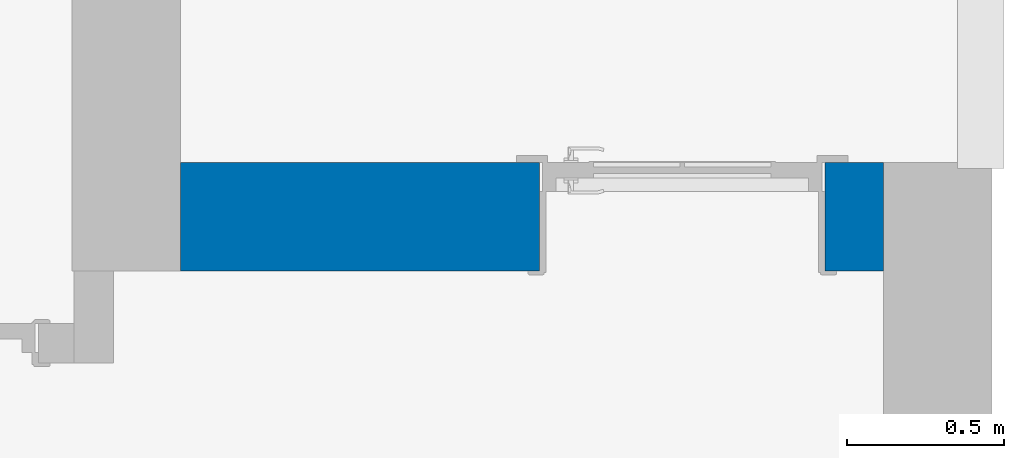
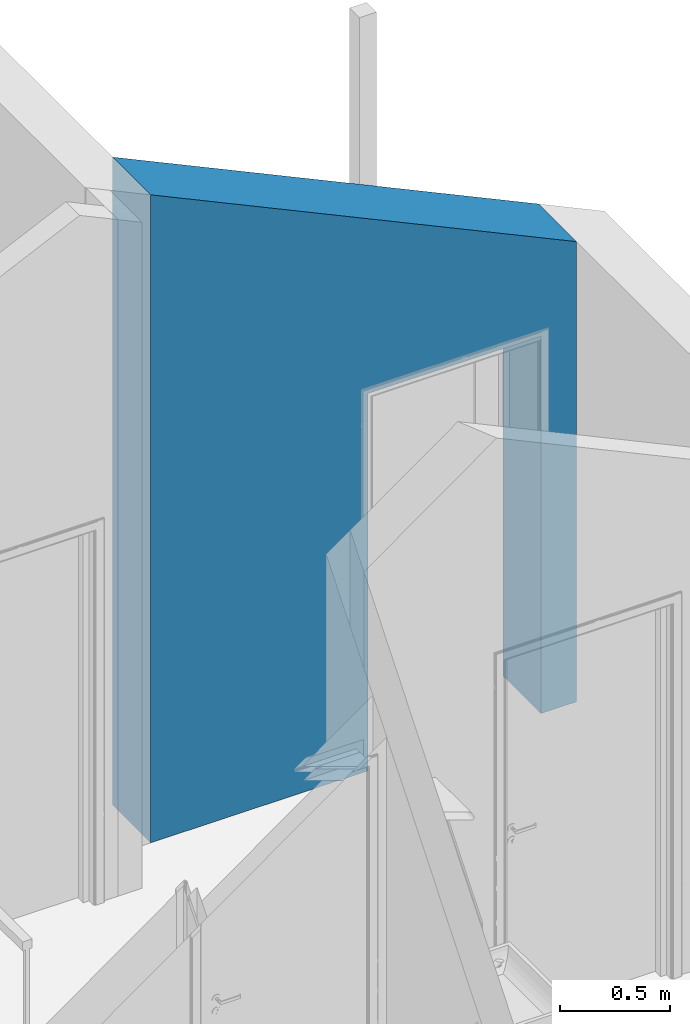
# One storey, part 29 of 44: 1 wall, 1 opening.
"""IFC2X3 building model written with IfcOpenShell, lengths in millimetres."""

from ifc_helpers import new_model, entity, si_unit, converted_unit, direction, frame, frame_2d, origin, place, context, subcontext, project, spatial, polyline, rectangle, extrude, clip, bounded_halfspace, material, layer, layer_set, layer_usage, type_object, element, save


model = new_model("IFC2X3")

# Units and contexts
model_context = context("Model", 3, precision=0.01, world=origin(), true_north=direction((0.0, 1.0)))
body_context = subcontext(model_context, "Body", "Model", "MODEL_VIEW")
ifc_project = project(units=[si_unit("LENGTHUNIT", "METRE", prefix="MILLI"), si_unit("AREAUNIT", "SQUARE_METRE"), si_unit("VOLUMEUNIT", "CUBIC_METRE"), converted_unit("PLANEANGLEUNIT", "DEGREE", entity("IfcPlaneAngleMeasure", 0.017453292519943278), si_unit("PLANEANGLEUNIT", "RADIAN"), dimensions=[0, 0, 0, 0, 0, 0, 0])], contexts=[model_context])

# Site, building, storey
site_placement = place(None, origin())
site = spatial("IfcSite", under=ifc_project, at=site_placement, Name="Default", CompositionType="ELEMENT")
building_placement = place(site_placement, origin())
building = spatial("IfcBuilding", under=site, at=building_placement, CompositionType="ELEMENT")
storey_placement = place(building_placement, frame((0.0, 0.0, 2681.0)))
storey = spatial("IfcBuildingStorey", under=building, at=storey_placement, Name="Et. 2", CompositionType="ELEMENT", Elevation=2681.0)

# Wall, opening
ifc_material_1 = material(Name="Vegg - Stående Kledning_smal - HVIT")
ifc_layer_1 = layer(ifc_material_1, 19.0)
ifc_material_2 = material(Name="Vegg - Utlekting")
ifc_layer_2 = layer(ifc_material_2, 36.0)
ifc_layer_3 = layer(ifc_material_2, 23.0)
ifc_material_3 = material(Name="Vegg - Gips - GU")
ifc_layer_4 = layer(ifc_material_3, 9.0)
ifc_material_4 = material(Name="Vegg - Stender - Isolert")
ifc_layer_5 = layer(ifc_material_4, 198.0)
ifc_material_5 = material(Name="Vegg - Påforing - Isolert")
ifc_layer_6 = layer(ifc_material_5, 48.0)
ifc_material_6 = material(Name="Vegg - Gips - Hvit")
ifc_layer_7 = layer(ifc_material_6, 13.000000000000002)
ifc_layer_set = layer_set([ifc_layer_1, ifc_layer_2, ifc_layer_3, ifc_layer_4, ifc_layer_5, ifc_layer_6, ifc_layer_7], Name="Basic Wall:23-Kv(sm)TIG-19_36_23_9_198_48_13")
ifc_layer_usage = layer_usage(ifc_layer_set, "AXIS2", "NEGATIVE", 173.0)
wall_type = type_object("IfcWallType", Name="Basic Wall:23-Kv(sm)TIG-19_36_23_9_198_48_13", PredefinedType="STANDARD", material=ifc_layer_set)
wall_placement = place(storey_placement, frame((31678.00958675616, 13822.180957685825, 0.0)))
wall = element("IfcWallStandardCase", 1, at=wall_placement, inside=storey, type_object=wall_type, material=ifc_layer_usage, Name="Basic Wall:23-Kv(sm)TIG-19_36_23_9_198_48_13", context=body_context, shape_type="Clipping", body=[
    clip(extrude(rectangle(XDim=2241.000000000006, YDim=345.9999999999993, at=frame_2d((1120.500000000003, -2.2737367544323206e-13), x_axis=(1.0, 0.0))), origin(), (0.0, 0.0, 1.0), 3606.337911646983), bounded_halfspace(frame((0.0, -173.0, 3606.337911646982), z_axis=(0.42261826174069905, 0.0, 0.9063077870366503), x_axis=(0.0, 1.0, 0.0)), False, frame((0.0, -173.0, 3606.337911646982)), polyline([(0.0, 0.0), (2241.0, 0.0), (2241.0, 346.0), (0.0, 346.0), (0.0, 0.0)]))),
])
opening_placement = place(wall_placement, frame((1144.0, -173.0, 0.0)))
element("IfcOpeningElement", 2, at=opening_placement, cuts=wall, Name="YD Dynamiske sprosser omramming:9x21M:1", ObjectType="Opening", context=body_context, shape_type="SweptSolid", body=[
    extrude(rectangle(XDim=910.00000000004, YDim=2100.000000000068, at=frame_2d((1050.000000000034, 455.00000000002), x_axis=(0.0, 1.0))), frame((0.0, 0.0, 0.0), z_axis=(0.0, 1.0, 0.0), x_axis=(0.0, 0.0, 1.0)), (0.0, 0.0, 1.0), 346.0),
])

save(model, "model.ifc")
